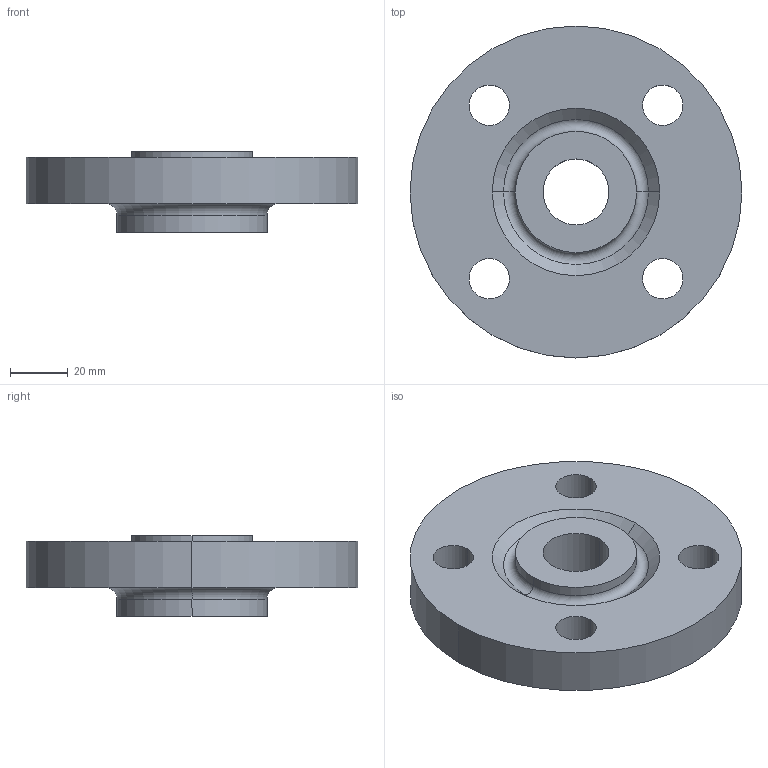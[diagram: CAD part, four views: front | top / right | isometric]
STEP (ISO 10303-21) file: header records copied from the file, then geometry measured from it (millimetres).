
FILE_DESCRIPTION (( 'STEP AP214' ), '1' );
FILE_NAME ('PN40 DN25 Type 13 - Type H Face.STEP', '2018-12-29T20:22:48', ( '' ), ( '' ), 'SwSTEP 2.0', 'SolidWorks 2019', '' );
FILE_SCHEMA (( 'AUTOMOTIVE_DESIGN' ));
Length unit declared in the file: millimetre
Products named in the file (1): PN40 DN25 Type 13 - Type H Face
Bounding box: 115 x 115 x 28 mm (x, y, z)
Volume: 166204.6 mm3; surface area: 31580.5 mm2
Topology: 1 solids, 1 shells, 26 faces, 60 edges, 38 vertices
Faces by surface type: cylinder 16, torus 4, plane 4, cone 2
Entity records: 812 total; most frequent: DIRECTION 156, CARTESIAN_POINT 125, ORIENTED_EDGE 120, AXIS2_PLACEMENT_3D 69, EDGE_CURVE 60, CIRCLE 42, VERTEX_POINT 38, EDGE_LOOP 38
